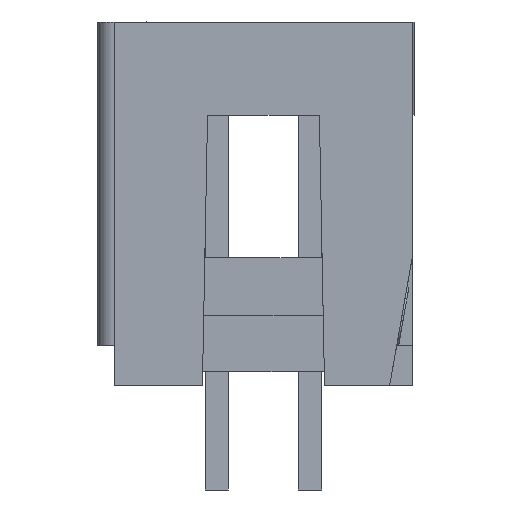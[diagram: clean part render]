
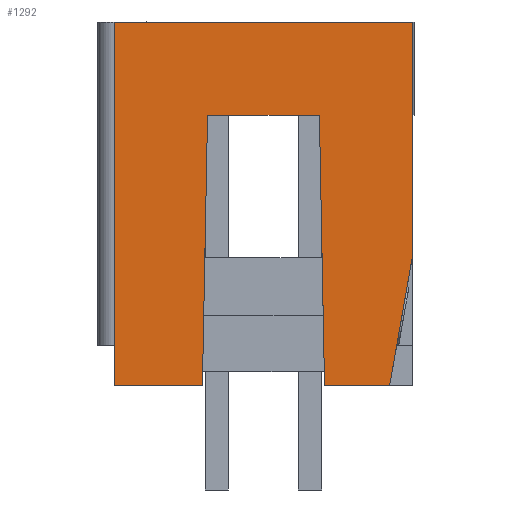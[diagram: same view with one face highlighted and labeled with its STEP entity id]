
A CAD part, left-side view. The second image highlights one B-rep face of the part: STEP entity #1292.
In plain terms, the highlighted planar face has unit normal (-1, 0, 0).
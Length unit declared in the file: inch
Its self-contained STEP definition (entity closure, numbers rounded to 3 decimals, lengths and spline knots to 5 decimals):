
#147=FACE_OUTER_BOUND('',#3366,.T.);
#1292=ADVANCED_FACE('',(#147),#2211,.T.);
#2211=PLANE('',#16949);
#3366=EDGE_LOOP('',(#5175,#5176,#5177,#5178,#5179,#5180,#5181,#5182,#5183));
#5175=ORIENTED_EDGE('',*,*,#11263,.T.);
#5176=ORIENTED_EDGE('',*,*,#11260,.T.);
#5177=ORIENTED_EDGE('',*,*,#11220,.F.);
#5178=ORIENTED_EDGE('',*,*,#11226,.F.);
#5179=ORIENTED_EDGE('',*,*,#11063,.T.);
#5180=ORIENTED_EDGE('',*,*,#11264,.T.);
#5181=ORIENTED_EDGE('',*,*,#11265,.T.);
#5182=ORIENTED_EDGE('',*,*,#11266,.T.);
#5183=ORIENTED_EDGE('',*,*,#11267,.T.);
#9524=VERTEX_POINT('',#23469);
#9525=VERTEX_POINT('',#23471);
#9650=VERTEX_POINT('',#23958);
#9651=VERTEX_POINT('',#23960);
#9683=VERTEX_POINT('',#24104);
#9685=VERTEX_POINT('',#24110);
#9686=VERTEX_POINT('',#24112);
#9687=VERTEX_POINT('',#24114);
#9688=VERTEX_POINT('',#24116);
#11063=EDGE_CURVE('',#9525,#9524,#13360,.T.);
#11220=EDGE_CURVE('',#9650,#9651,#13461,.T.);
#11226=EDGE_CURVE('',#9525,#9650,#13466,.T.);
#11260=EDGE_CURVE('',#9683,#9651,#13496,.T.);
#11263=EDGE_CURVE('',#9685,#9683,#13499,.T.);
#11264=EDGE_CURVE('',#9524,#9686,#13500,.T.);
#11265=EDGE_CURVE('',#9686,#9687,#13501,.T.);
#11266=EDGE_CURVE('',#9687,#9688,#13502,.T.);
#11267=EDGE_CURVE('',#9688,#9685,#13503,.T.);
#13360=LINE('',#23470,#15447);
#13461=LINE('',#23959,#15548);
#13466=LINE('',#23969,#15553);
#13496=LINE('',#24103,#15583);
#13499=LINE('',#24109,#15586);
#13500=LINE('',#24111,#15587);
#13501=LINE('',#24113,#15588);
#13502=LINE('',#24115,#15589);
#13503=LINE('',#24117,#15590);
#15447=VECTOR('',#18612,1.);
#15548=VECTOR('',#18797,1.);
#15553=VECTOR('',#18806,1.);
#15583=VECTOR('',#18838,1.);
#15586=VECTOR('',#18843,1.);
#15587=VECTOR('',#18844,1.);
#15588=VECTOR('',#18845,1.);
#15589=VECTOR('',#18846,1.);
#15590=VECTOR('',#18847,1.);
#16949=AXIS2_PLACEMENT_3D('',#24118,#18848,#18849);
#18612=DIRECTION('',(0.,0.,-1.));
#18797=DIRECTION('',(0.,0.,-1.));
#18806=DIRECTION('',(0.,-1.,0.));
#18838=DIRECTION('',(0.,-0.174,0.985));
#18843=DIRECTION('',(0.,-1.,0.));
#18844=DIRECTION('',(0.,-1.,0.));
#18845=DIRECTION('',(0.,-0.019,1.));
#18846=DIRECTION('',(0.,-1.,0.));
#18847=DIRECTION('',(0.,-0.019,-1.));
#18848=DIRECTION('',(-1.,0.,0.));
#18849=DIRECTION('',(0.,0.,1.));
#23469=CARTESIAN_POINT('',(-0.194,0.21,0.));
#23470=CARTESIAN_POINT('',(-0.194,0.21,0.));
#23471=CARTESIAN_POINT('',(-0.194,0.21,0.39));
#23958=CARTESIAN_POINT('',(-0.194,-0.11,0.39));
#23959=CARTESIAN_POINT('',(-0.194,-0.11,0.));
#23960=CARTESIAN_POINT('',(-0.194,-0.11,0.14));
#23969=CARTESIAN_POINT('',(-0.194,-0.11,0.39));
#24103=CARTESIAN_POINT('',(-0.194,-0.08531,0.));
#24104=CARTESIAN_POINT('',(-0.194,-0.08531,0.));
#24109=CARTESIAN_POINT('',(-0.194,-0.11,0.));
#24110=CARTESIAN_POINT('',(-0.194,-0.0155,0.));
#24111=CARTESIAN_POINT('',(-0.194,-0.11,0.));
#24112=CARTESIAN_POINT('',(-0.194,0.1155,0.));
#24113=CARTESIAN_POINT('',(-0.194,0.11,0.29));
#24114=CARTESIAN_POINT('',(-0.194,0.11,0.29));
#24115=CARTESIAN_POINT('',(-0.194,-0.01,0.29));
#24116=CARTESIAN_POINT('',(-0.194,-0.01,0.29));
#24117=CARTESIAN_POINT('',(-0.194,-0.0155,0.));
#24118=CARTESIAN_POINT('',(-0.194,-0.11,0.));
